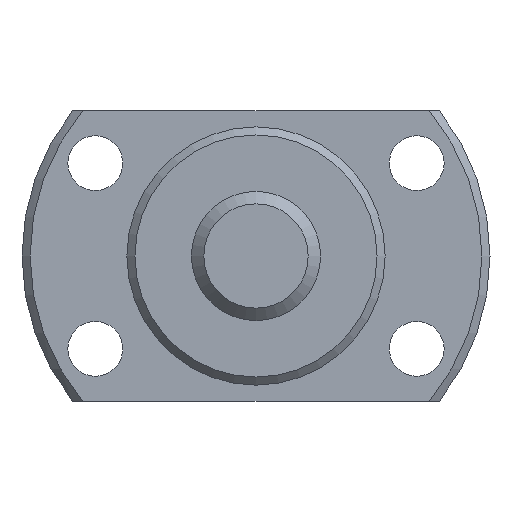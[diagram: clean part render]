
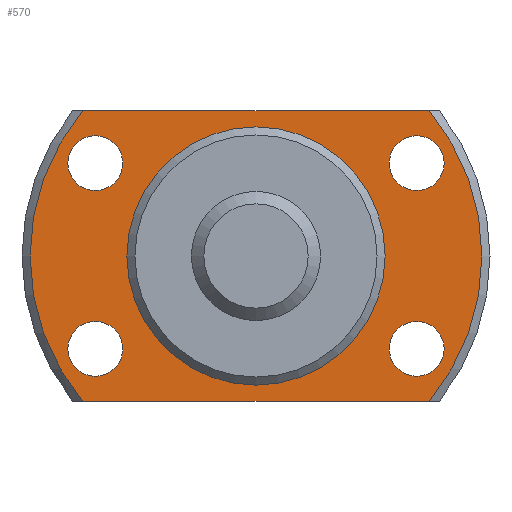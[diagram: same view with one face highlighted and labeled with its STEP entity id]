
A CAD part, left-side view. The second image highlights one B-rep face of the part: STEP entity #570.
In plain terms, the highlighted planar face has unit normal (-1, 0, 0).
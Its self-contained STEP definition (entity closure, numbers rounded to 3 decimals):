
#73=LINE('',#1002,#91);
#74=LINE('',#1006,#92);
#91=VECTOR('',#825,1000.);
#92=VECTOR('',#828,1000.);
#173=ORIENTED_EDGE('',*,*,#273,.T.);
#174=ORIENTED_EDGE('',*,*,#274,.T.);
#175=ORIENTED_EDGE('',*,*,#275,.T.);
#176=ORIENTED_EDGE('',*,*,#276,.T.);
#177=ORIENTED_EDGE('',*,*,#258,.F.);
#178=ORIENTED_EDGE('',*,*,#277,.F.);
#179=ORIENTED_EDGE('',*,*,#278,.F.);
#180=ORIENTED_EDGE('',*,*,#279,.F.);
#181=ORIENTED_EDGE('',*,*,#272,.T.);
#258=EDGE_CURVE('',#318,#319,#365,.T.);
#272=EDGE_CURVE('',#331,#331,#374,.T.);
#273=EDGE_CURVE('',#332,#332,#375,.T.);
#274=EDGE_CURVE('',#333,#333,#376,.T.);
#275=EDGE_CURVE('',#334,#334,#377,.T.);
#276=EDGE_CURVE('',#335,#335,#378,.T.);
#277=EDGE_CURVE('',#336,#318,#73,.T.);
#278=EDGE_CURVE('',#337,#336,#379,.T.);
#279=EDGE_CURVE('',#319,#337,#74,.T.);
#318=VERTEX_POINT('',#948);
#319=VERTEX_POINT('',#950);
#331=VERTEX_POINT('',#992);
#332=VERTEX_POINT('',#995);
#333=VERTEX_POINT('',#997);
#334=VERTEX_POINT('',#999);
#335=VERTEX_POINT('',#1001);
#336=VERTEX_POINT('',#1003);
#337=VERTEX_POINT('',#1005);
#365=CIRCLE('',#647,14.);
#374=CIRCLE('',#663,7.85);
#375=CIRCLE('',#665,1.7);
#376=CIRCLE('',#666,1.7);
#377=CIRCLE('',#667,1.7);
#378=CIRCLE('',#668,1.7);
#379=CIRCLE('',#669,14.);
#430=EDGE_LOOP('',(#173));
#431=EDGE_LOOP('',(#174));
#432=EDGE_LOOP('',(#175));
#433=EDGE_LOOP('',(#176));
#434=EDGE_LOOP('',(#177,#178,#179,#180));
#435=EDGE_LOOP('',(#181));
#500=FACE_BOUND('',#430,.T.);
#501=FACE_BOUND('',#431,.T.);
#502=FACE_BOUND('',#432,.T.);
#503=FACE_BOUND('',#433,.T.);
#504=FACE_BOUND('',#434,.T.);
#505=FACE_BOUND('',#435,.T.);
#539=PLANE('',#664);
#570=ADVANCED_FACE('',(#500,#501,#502,#503,#504,#505),#539,.F.);
#647=AXIS2_PLACEMENT_3D('',#949,#779,#780);
#663=AXIS2_PLACEMENT_3D('',#991,#813,#814);
#664=AXIS2_PLACEMENT_3D('',#993,#815,#816);
#665=AXIS2_PLACEMENT_3D('',#994,#817,#818);
#666=AXIS2_PLACEMENT_3D('',#996,#819,#820);
#667=AXIS2_PLACEMENT_3D('',#998,#821,#822);
#668=AXIS2_PLACEMENT_3D('',#1000,#823,#824);
#669=AXIS2_PLACEMENT_3D('',#1004,#826,#827);
#779=DIRECTION('',(1.,0.,0.));
#780=DIRECTION('',(0.,0.,-1.));
#813=DIRECTION('',(1.,0.,0.));
#814=DIRECTION('',(0.,0.,-1.));
#815=DIRECTION('',(1.,0.,0.));
#816=DIRECTION('',(0.,0.,-1.));
#817=DIRECTION('',(1.,0.,0.));
#818=DIRECTION('',(0.,0.,-1.));
#819=DIRECTION('',(1.,0.,0.));
#820=DIRECTION('',(0.,0.,-1.));
#821=DIRECTION('',(1.,0.,0.));
#822=DIRECTION('',(0.,0.,-1.));
#823=DIRECTION('',(1.,0.,0.));
#824=DIRECTION('',(0.,0.,-1.));
#825=DIRECTION('',(0.,1.,0.));
#826=DIRECTION('',(1.,0.,0.));
#827=DIRECTION('',(0.,0.,-1.));
#828=DIRECTION('',(0.,-1.,0.));
#948=CARTESIAN_POINT('',(12.,10.724,-9.));
#949=CARTESIAN_POINT('',(12.,0.,0.));
#950=CARTESIAN_POINT('',(12.,10.724,9.));
#991=CARTESIAN_POINT('',(12.,0.,0.));
#992=CARTESIAN_POINT('',(12.,0.,-7.85));
#993=CARTESIAN_POINT('',(12.,7.85,0.));
#994=CARTESIAN_POINT('',(12.,-9.959,-5.75));
#995=CARTESIAN_POINT('',(12.,-9.959,-7.45));
#996=CARTESIAN_POINT('',(12.,-9.959,5.75));
#997=CARTESIAN_POINT('',(12.,-9.959,4.05));
#998=CARTESIAN_POINT('',(12.,9.959,-5.75));
#999=CARTESIAN_POINT('',(12.,9.959,-7.45));
#1000=CARTESIAN_POINT('',(12.,9.959,5.75));
#1001=CARTESIAN_POINT('',(12.,9.959,4.05));
#1002=CARTESIAN_POINT('',(12.,-19.5,-9.));
#1003=CARTESIAN_POINT('',(12.,-10.724,-9.));
#1004=CARTESIAN_POINT('',(12.,0.,0.));
#1005=CARTESIAN_POINT('',(12.,-10.724,9.));
#1006=CARTESIAN_POINT('',(12.,19.5,9.));
